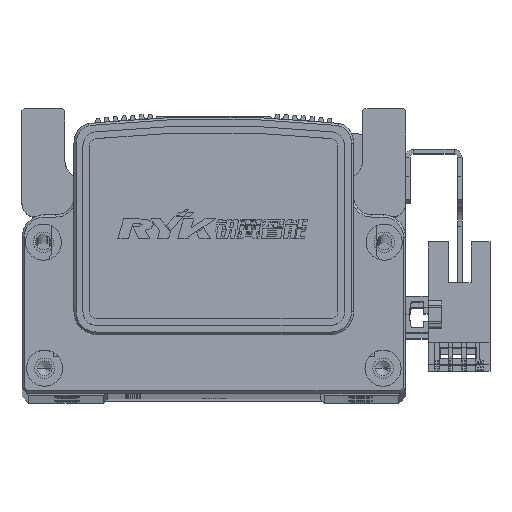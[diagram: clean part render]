
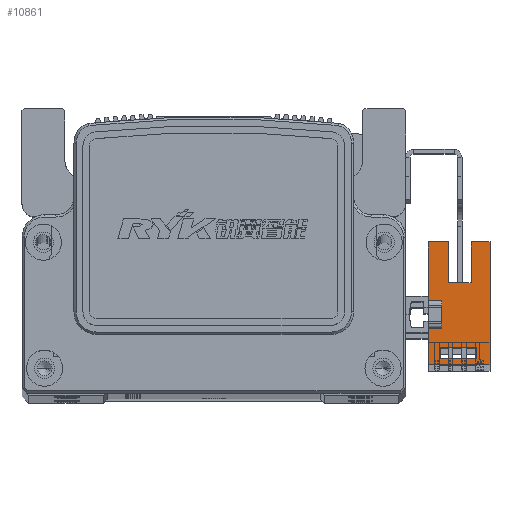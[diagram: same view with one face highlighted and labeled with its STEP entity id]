
A CAD part, top view. The second image highlights one B-rep face of the part: STEP entity #10861.
In plain terms, the highlighted planar face has unit normal (0, 0, 1) as drawn and (1, 0, 0) by its records, which use the part's own axes.
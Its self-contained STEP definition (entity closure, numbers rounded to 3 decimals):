
#1035 = VERTEX_POINT ( 'NONE', #10195 ) ;
#1049 = VERTEX_POINT ( 'NONE', #10185 ) ;
#1066 = VERTEX_POINT ( 'NONE', #10179 ) ;
#1087 = VERTEX_POINT ( 'NONE', #10203 ) ;
#1091 = VERTEX_POINT ( 'NONE', #10255 ) ;
#1106 = VERTEX_POINT ( 'NONE', #10228 ) ;
#1111 = VERTEX_POINT ( 'NONE', #10229 ) ;
#1113 = VERTEX_POINT ( 'NONE', #10231 ) ;
#1119 = VERTEX_POINT ( 'NONE', #10230 ) ;
#1121 = VERTEX_POINT ( 'NONE', #10232 ) ;
#1137 = VERTEX_POINT ( 'NONE', #10254 ) ;
#1148 = VERTEX_POINT ( 'NONE', #10310 ) ;
#1151 = VERTEX_POINT ( 'NONE', #10263 ) ;
#1152 = VERTEX_POINT ( 'NONE', #10314 ) ;
#1158 = VERTEX_POINT ( 'NONE', #10306 ) ;
#1159 = VERTEX_POINT ( 'NONE', #10299 ) ;
#5271 = LINE ( 'NONE', #26252, #5272 ) ;
#5272 = VECTOR ( 'NONE', #26285, 1000. ) ;
#5339 = LINE ( 'NONE', #26341, #5387 ) ;
#5368 = LINE ( 'NONE', #26448, #5421 ) ;
#5370 = VECTOR ( 'NONE', #26380, 1000. ) ;
#5374 = VECTOR ( 'NONE', #26381, 1000. ) ;
#5377 = LINE ( 'NONE', #26365, #5427 ) ;
#5379 = LINE ( 'NONE', #26379, #5370 ) ;
#5381 = LINE ( 'NONE', #26391, #5382 ) ;
#5382 = VECTOR ( 'NONE', #26388, 1000. ) ;
#5387 = VECTOR ( 'NONE', #26339, 1000. ) ;
#5394 = LINE ( 'NONE', #26406, #5374 ) ;
#5421 = VECTOR ( 'NONE', #26418, 1000. ) ;
#5422 = LINE ( 'NONE', #26395, #5423 ) ;
#5423 = VECTOR ( 'NONE', #26412, 1000. ) ;
#5427 = VECTOR ( 'NONE', #26400, 1000. ) ;
#5446 = VECTOR ( 'NONE', #26420, 1000. ) ;
#5452 = LINE ( 'NONE', #26449, #5446 ) ;
#5456 = VECTOR ( 'NONE', #26453, 1000. ) ;
#5462 = LINE ( 'NONE', #26490, #5480 ) ;
#5472 = LINE ( 'NONE', #26421, #5478 ) ;
#5478 = VECTOR ( 'NONE', #26444, 1000. ) ;
#5480 = VECTOR ( 'NONE', #26479, 1000. ) ;
#5487 = LINE ( 'NONE', #26440, #5456 ) ;
#5499 = VECTOR ( 'NONE', #26565, 1000. ) ;
#5503 = VECTOR ( 'NONE', #26506, 1000. ) ;
#5508 = LINE ( 'NONE', #26519, #5549 ) ;
#5526 = LINE ( 'NONE', #26575, #5499 ) ;
#5542 = LINE ( 'NONE', #26505, #5503 ) ;
#5549 = VECTOR ( 'NONE', #26517, 1000. ) ;
#5694 = LINE ( 'NONE', #26665, #5709 ) ;
#5709 = VECTOR ( 'NONE', #26633, 1000. ) ;
#8758 = EDGE_LOOP ( 'NONE', ( #36934, #36864, #36998, #36918, #36942, #36874, #36890, #36952, #36847, #36860, #36842, #36948 ) ) ;
#8802 = EDGE_LOOP ( 'NONE', ( #36872, #36954, #36840, #36930 ) ) ;
#10179 = CARTESIAN_POINT ( 'NONE',  ( 3.2, 16.1, -6.5 ) ) ;
#10185 = CARTESIAN_POINT ( 'NONE',  ( 3.2, -11.1, 3. ) ) ;
#10195 = CARTESIAN_POINT ( 'NONE',  ( 3.2, 3.1, 3. ) ) ;
#10203 = CARTESIAN_POINT ( 'NONE',  ( 3.2, 16.1, -10.7 ) ) ;
#10228 = CARTESIAN_POINT ( 'NONE',  ( 3.2, -3.1, 0. ) ) ;
#10229 = CARTESIAN_POINT ( 'NONE',  ( 3.2, 7.1, -6.5 ) ) ;
#10230 = CARTESIAN_POINT ( 'NONE',  ( 3.2, -11.1, -10.7 ) ) ;
#10231 = CARTESIAN_POINT ( 'NONE',  ( 3.2, -3.1, 3. ) ) ;
#10232 = CARTESIAN_POINT ( 'NONE',  ( 3.2, 3.1, 0. ) ) ;
#10254 = CARTESIAN_POINT ( 'NONE',  ( 3.2, -9.83, 0.3 ) ) ;
#10255 = CARTESIAN_POINT ( 'NONE',  ( 3.2, 16.1, 3. ) ) ;
#10263 = CARTESIAN_POINT ( 'NONE',  ( 3.2, -9.83, -7.7 ) ) ;
#10299 = CARTESIAN_POINT ( 'NONE',  ( 3.2, 7.1, -1.5 ) ) ;
#10306 = CARTESIAN_POINT ( 'NONE',  ( 3.2, 16.1, -1.5 ) ) ;
#10310 = CARTESIAN_POINT ( 'NONE',  ( 3.2, -7.33, 0.3 ) ) ;
#10314 = CARTESIAN_POINT ( 'NONE',  ( 3.2, -7.33, -7.7 ) ) ;
#10861 = ADVANCED_FACE ( 'NONE', ( #18780, #18790 ), #38958, .T. ) ;
#18780 = FACE_OUTER_BOUND ( 'NONE', #8758, .T. ) ;
#18790 = FACE_BOUND ( 'NONE', #8802, .T. ) ;
#23418 = AXIS2_PLACEMENT_3D ( 'NONE', #38959, #38970, #38966 ) ;
#26252 = CARTESIAN_POINT ( 'NONE',  ( 3.2, 16.1, 3. ) ) ;
#26285 = DIRECTION ( 'NONE',  ( 0., 1., 0. ) ) ;
#26339 = DIRECTION ( 'NONE',  ( 0., 1., 0. ) ) ;
#26341 = CARTESIAN_POINT ( 'NONE',  ( 3.2, 16.1, 3. ) ) ;
#26365 = CARTESIAN_POINT ( 'NONE',  ( 3.2, 16.1, -10.7 ) ) ;
#26379 = CARTESIAN_POINT ( 'NONE',  ( 3.2, -9.83, -10.7 ) ) ;
#26380 = DIRECTION ( 'NONE',  ( 0., 0., -1. ) ) ;
#26381 = DIRECTION ( 'NONE',  ( 0., 1., 0. ) ) ;
#26388 = DIRECTION ( 'NONE',  ( 0., 0., 1. ) ) ;
#26391 = CARTESIAN_POINT ( 'NONE',  ( 3.2, 3.1, 3. ) ) ;
#26395 = CARTESIAN_POINT ( 'NONE',  ( 3.2, 7.1, -6.5 ) ) ;
#26400 = DIRECTION ( 'NONE',  ( 0., 0., 1. ) ) ;
#26406 = CARTESIAN_POINT ( 'NONE',  ( 3.2, 16.1, -7.7 ) ) ;
#26412 = DIRECTION ( 'NONE',  ( 0., 0., 1. ) ) ;
#26418 = DIRECTION ( 'NONE',  ( 0., 1., 0. ) ) ;
#26420 = DIRECTION ( 'NONE',  ( 0., -1., 0. ) ) ;
#26421 = CARTESIAN_POINT ( 'NONE',  ( 3.2, 25.1, -6.5 ) ) ;
#26440 = CARTESIAN_POINT ( 'NONE',  ( 3.2, 25.1, -1.5 ) ) ;
#26444 = DIRECTION ( 'NONE',  ( 0., -1., 0. ) ) ;
#26448 = CARTESIAN_POINT ( 'NONE',  ( 3.2, 0., 0. ) ) ;
#26449 = CARTESIAN_POINT ( 'NONE',  ( 3.2, 16.1, 0.3 ) ) ;
#26453 = DIRECTION ( 'NONE',  ( 0., 1., 0. ) ) ;
#26479 = DIRECTION ( 'NONE',  ( 0., 0., 1. ) ) ;
#26490 = CARTESIAN_POINT ( 'NONE',  ( 3.2, -7.33, -10.7 ) ) ;
#26505 = CARTESIAN_POINT ( 'NONE',  ( 3.2, 16.1, -10.7 ) ) ;
#26506 = DIRECTION ( 'NONE',  ( 0., 1., 0. ) ) ;
#26517 = DIRECTION ( 'NONE',  ( 0., 0., 1. ) ) ;
#26519 = CARTESIAN_POINT ( 'NONE',  ( 3.2, -11.1, 3. ) ) ;
#26565 = DIRECTION ( 'NONE',  ( 0., 0., -1. ) ) ;
#26575 = CARTESIAN_POINT ( 'NONE',  ( 3.2, -3.1, 3. ) ) ;
#26633 = DIRECTION ( 'NONE',  ( 0., 0., 1. ) ) ;
#26665 = CARTESIAN_POINT ( 'NONE',  ( 3.2, 16.1, -10.7 ) ) ;
#36840 = ORIENTED_EDGE ( 'NONE', *, *, #45312, .F. ) ;
#36842 = ORIENTED_EDGE ( 'NONE', *, *, #45362, .T. ) ;
#36847 = ORIENTED_EDGE ( 'NONE', *, *, #45252, .F. ) ;
#36860 = ORIENTED_EDGE ( 'NONE', *, *, #45368, .F. ) ;
#36864 = ORIENTED_EDGE ( 'NONE', *, *, #45318, .T. ) ;
#36872 = ORIENTED_EDGE ( 'NONE', *, *, #45328, .F. ) ;
#36874 = ORIENTED_EDGE ( 'NONE', *, *, #45309, .F. ) ;
#36890 = ORIENTED_EDGE ( 'NONE', *, *, #45321, .F. ) ;
#36918 = ORIENTED_EDGE ( 'NONE', *, *, #45429, .T. ) ;
#36930 = ORIENTED_EDGE ( 'NONE', *, *, #45308, .F. ) ;
#36934 = ORIENTED_EDGE ( 'NONE', *, *, #45327, .T. ) ;
#36942 = ORIENTED_EDGE ( 'NONE', *, *, #45290, .F. ) ;
#36948 = ORIENTED_EDGE ( 'NONE', *, *, #45302, .T. ) ;
#36952 = ORIENTED_EDGE ( 'NONE', *, *, #45382, .F. ) ;
#36954 = ORIENTED_EDGE ( 'NONE', *, *, #45343, .F. ) ;
#36998 = ORIENTED_EDGE ( 'NONE', *, *, #45335, .T. ) ;
#38958 = PLANE ( 'NONE',  #23418 ) ;
#38959 = CARTESIAN_POINT ( 'NONE',  ( 3.2, 16.1, -10.7 ) ) ;
#38966 = DIRECTION ( 'NONE',  ( 0., 1., 0. ) ) ;
#38970 = DIRECTION ( 'NONE',  ( 1., 0., 0. ) ) ;
#45252 = EDGE_CURVE ( 'NONE', #1049, #1113, #5271, .T. ) ;
#45290 = EDGE_CURVE ( 'NONE', #1035, #1091, #5339, .T. ) ;
#45302 = EDGE_CURVE ( 'NONE', #1087, #1066, #5377, .T. ) ;
#45308 = EDGE_CURVE ( 'NONE', #1137, #1151, #5379, .T. ) ;
#45309 = EDGE_CURVE ( 'NONE', #1121, #1035, #5381, .T. ) ;
#45312 = EDGE_CURVE ( 'NONE', #1151, #1152, #5394, .T. ) ;
#45318 = EDGE_CURVE ( 'NONE', #1111, #1159, #5422, .T. ) ;
#45321 = EDGE_CURVE ( 'NONE', #1106, #1121, #5368, .T. ) ;
#45327 = EDGE_CURVE ( 'NONE', #1066, #1111, #5472, .T. ) ;
#45328 = EDGE_CURVE ( 'NONE', #1148, #1137, #5452, .T. ) ;
#45335 = EDGE_CURVE ( 'NONE', #1159, #1158, #5487, .T. ) ;
#45343 = EDGE_CURVE ( 'NONE', #1152, #1148, #5462, .T. ) ;
#45362 = EDGE_CURVE ( 'NONE', #1119, #1087, #5542, .T. ) ;
#45368 = EDGE_CURVE ( 'NONE', #1119, #1049, #5508, .T. ) ;
#45382 = EDGE_CURVE ( 'NONE', #1113, #1106, #5526, .T. ) ;
#45429 = EDGE_CURVE ( 'NONE', #1158, #1091, #5694, .T. ) ;
